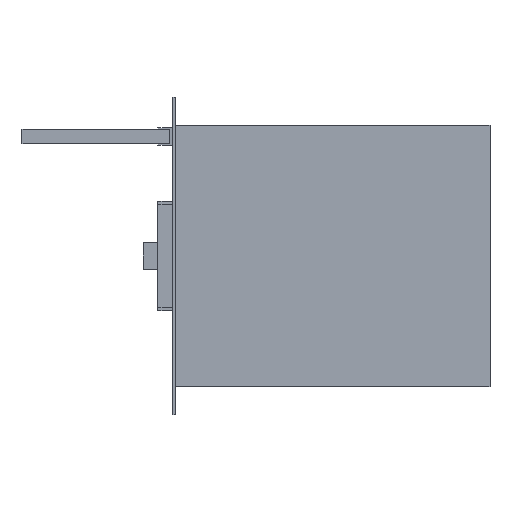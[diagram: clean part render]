
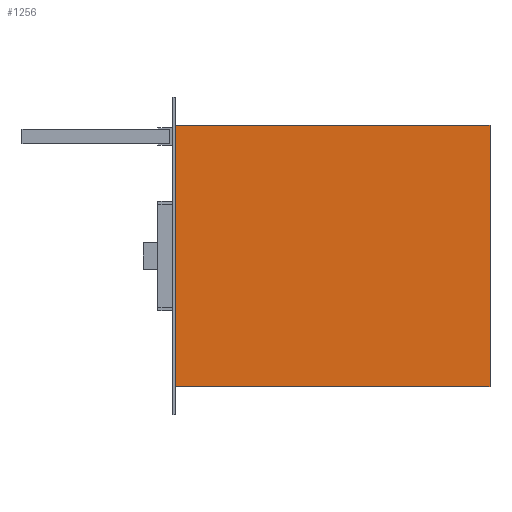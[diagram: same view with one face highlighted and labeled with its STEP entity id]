
A CAD part, left-side view. The second image highlights one B-rep face of the part: STEP entity #1256.
In plain terms, the highlighted planar face has unit normal (-1, 0, 0).
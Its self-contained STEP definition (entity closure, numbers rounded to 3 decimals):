
#4 = ORIENTED_EDGE ( 'NONE', *, *, #2024, .T. ) ;
#28 = ORIENTED_EDGE ( 'NONE', *, *, #921, .T. ) ;
#257 = CARTESIAN_POINT ( 'NONE',  ( -343., -213., -88.5 ) ) ;
#284 = FACE_OUTER_BOUND ( 'NONE', #1583, .T. ) ;
#296 = CARTESIAN_POINT ( 'NONE',  ( -343., -213., -88.5 ) ) ;
#319 = CARTESIAN_POINT ( 'NONE',  ( -343., -213., -88.5 ) ) ;
#403 = EDGE_CURVE ( 'NONE', #1356, #1729, #1809, .T. ) ;
#467 = DIRECTION ( 'NONE',  ( 0., 0., -1. ) ) ;
#471 = VERTEX_POINT ( 'NONE', #620 ) ;
#498 = CARTESIAN_POINT ( 'NONE',  ( -343., -213., 88.5 ) ) ;
#505 = EDGE_CURVE ( 'NONE', #471, #1977, #810, .T. ) ;
#555 = ORIENTED_EDGE ( 'NONE', *, *, #403, .T. ) ;
#579 = PLANE ( 'NONE',  #1487 ) ;
#620 = CARTESIAN_POINT ( 'NONE',  ( -343., 0., 88.5 ) ) ;
#736 = CARTESIAN_POINT ( 'NONE',  ( -343., -213., 88.5 ) ) ;
#810 = LINE ( 'NONE', #1303, #1423 ) ;
#921 = EDGE_CURVE ( 'NONE', #1977, #1356, #1156, .T. ) ;
#970 = CARTESIAN_POINT ( 'NONE',  ( -343., 2., 107.5 ) ) ;
#1005 = DIRECTION ( 'NONE',  ( 0., -1., 0. ) ) ;
#1146 = VECTOR ( 'NONE', #1943, 1000. ) ;
#1156 = LINE ( 'NONE', #319, #1307 ) ;
#1256 = ADVANCED_FACE ( 'NONE', ( #284 ), #579, .F. ) ;
#1284 = VECTOR ( 'NONE', #1936, 1000. ) ;
#1289 = LINE ( 'NONE', #736, #1146 ) ;
#1303 = CARTESIAN_POINT ( 'NONE',  ( -343., 0., -88.5 ) ) ;
#1307 = VECTOR ( 'NONE', #1005, 1000. ) ;
#1338 = DIRECTION ( 'NONE',  ( 1., 0., 0. ) ) ;
#1356 = VERTEX_POINT ( 'NONE', #296 ) ;
#1423 = VECTOR ( 'NONE', #467, 1000. ) ;
#1487 = AXIS2_PLACEMENT_3D ( 'NONE', #970, #1338, #1877 ) ;
#1581 = CARTESIAN_POINT ( 'NONE',  ( -343., 0., -88.5 ) ) ;
#1583 = EDGE_LOOP ( 'NONE', ( #28, #555, #4, #2055 ) ) ;
#1729 = VERTEX_POINT ( 'NONE', #498 ) ;
#1809 = LINE ( 'NONE', #257, #1284 ) ;
#1877 = DIRECTION ( 'NONE',  ( 0., 0., -1. ) ) ;
#1936 = DIRECTION ( 'NONE',  ( 0., 0., 1. ) ) ;
#1943 = DIRECTION ( 'NONE',  ( 0., 1., 0. ) ) ;
#1977 = VERTEX_POINT ( 'NONE', #1581 ) ;
#2024 = EDGE_CURVE ( 'NONE', #1729, #471, #1289, .T. ) ;
#2055 = ORIENTED_EDGE ( 'NONE', *, *, #505, .T. ) ;
